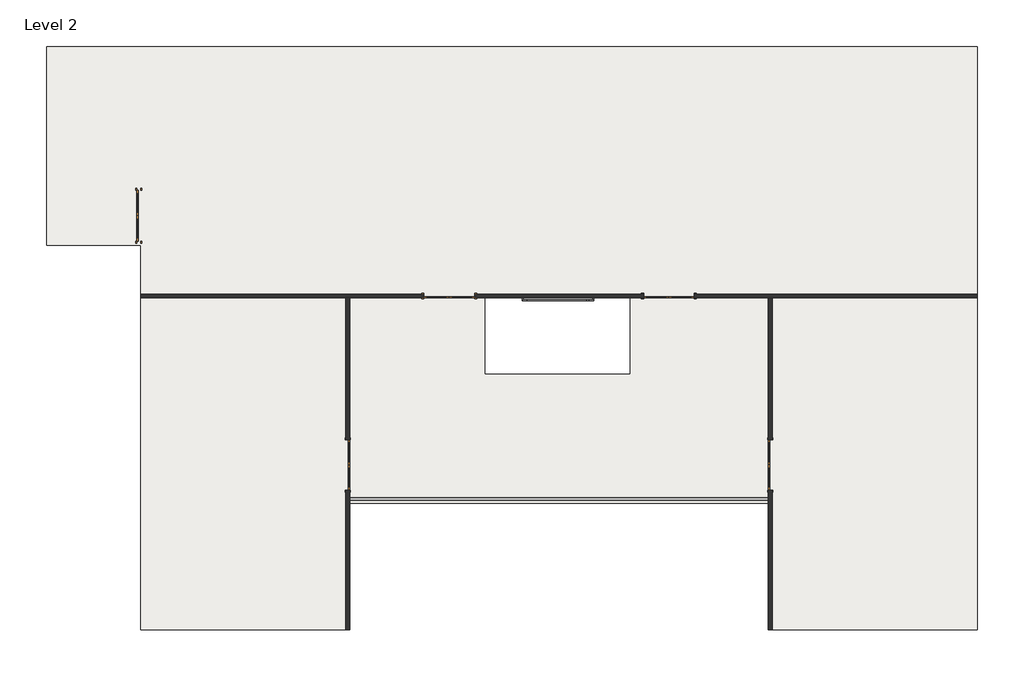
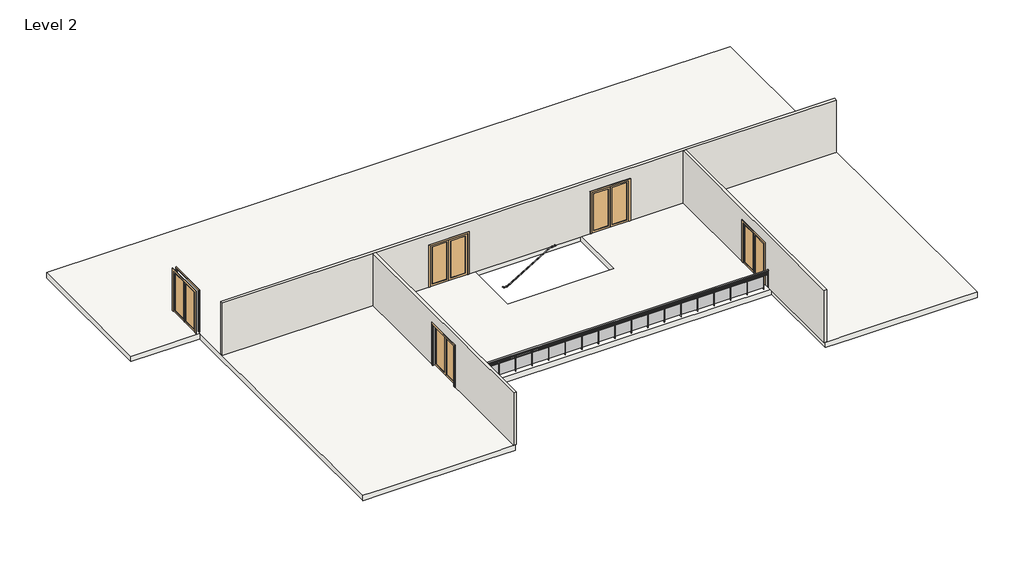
# One storey: 5 doors, 3 walls, 2 railings, 1 slab.
"""IFC4 building model written with IfcOpenShell, lengths in millimetres."""

import ifcopenshell
import ifcopenshell.guid

model = None  # the IFC model being written
_history = None  # IfcOwnerHistory: only IFC2X3 demands one
_inside = {}  # id of a spatial element -> (the spatial element, [elements in it])
_under = {}  # id of a project, library or spatial element -> (it, [spatial elements below it])
_declared = {}  # id of a project -> (the project, [libraries it declares])
_typed = {}  # id of a type object -> (the type object, [elements of that type])
_made_of = {}  # id of a material, layer set ... -> (it, [elements and type objects made of it])


def new_model(schema):
    """Start an empty IFC model of exactly this schema.

    Asked for "IFC4X3", IfcOpenShell would pick the latest addendum, in which some entities
    have other attributes; the version numbers below select the first issue.
    IFC2X3 requires an IfcOwnerHistory on every rooted entity: one is made here for all.
    """
    global model, _history
    if schema == "IFC4X3":
        model = ifcopenshell.file(schema_version=(4, 3, 0, 0))
    else:
        model = ifcopenshell.file(schema=schema)
    _inside.clear()
    _under.clear()
    _declared.clear()
    _typed.clear()
    _made_of.clear()
    _history = None
    if model.schema == "IFC2X3":
        org = make("IfcOrganization", Name="unknown")
        user = make(
            "IfcPersonAndOrganization",
            ThePerson=make("IfcPerson", FamilyName="unknown"),
            TheOrganization=org,
        )
        app = make(
            "IfcApplication",
            ApplicationDeveloper=org,
            Version="unknown",
            ApplicationFullName="unknown",
            ApplicationIdentifier="unknown",
        )
        _history = make(
            "IfcOwnerHistory",
            OwningUser=user,
            OwningApplication=app,
            ChangeAction="ADDED",
            CreationDate=0,
        )
    return model


def make(cls, **values):
    """One entity of the class cls with the attributes given. An attribute that is None is left unset."""
    return model.create_entity(
        cls, **{name: value for name, value in values.items() if value is not None}
    )


def rooted(cls, **values):
    """An entity with a GlobalId (a new one), such as an element, a storey or a relation."""
    return make(cls, GlobalId=ifcopenshell.guid.new(), OwnerHistory=_history, **values)


def si_unit(unit_type, name, prefix=None):
    """IfcSIUnit, for example si_unit("LENGTHUNIT", "METRE", prefix="MILLI")."""
    return make("IfcSIUnit", UnitType=unit_type, Prefix=prefix, Name=name)


def assignment(units):
    """IfcUnitAssignment: the units of a project."""
    return None if units is None else make("IfcUnitAssignment", Units=units)


def point(xyz):
    """IfcCartesianPoint."""
    return None if xyz is None else make("IfcCartesianPoint", Coordinates=xyz)


def direction(xyz):
    """IfcDirection."""
    return None if xyz is None else make("IfcDirection", DirectionRatios=xyz)


def frame(location, z_axis=None, x_axis=None):
    """IfcAxis2Placement3D, a coordinate frame: its origin and axes. An axis left out is left unset."""
    return make(
        "IfcAxis2Placement3D",
        Location=point(location),
        Axis=direction(z_axis),
        RefDirection=direction(x_axis),
    )


def origin():
    """The frame at (0, 0, 0) with its axes left unset."""
    return frame((0.0, 0.0, 0.0))


def place(relative_to, where):
    """IfcLocalPlacement: puts the frame where relative to a parent placement (None: the world)."""
    return make(
        "IfcLocalPlacement", PlacementRelTo=relative_to, RelativePlacement=where
    )


def context(
    kind, dimensions, precision=None, world=None, true_north=None, identifier=None
):
    """IfcGeometricRepresentationContext, for example the 3D "Model" context."""
    return make(
        "IfcGeometricRepresentationContext",
        ContextIdentifier=identifier,
        ContextType=kind,
        CoordinateSpaceDimension=dimensions,
        Precision=precision,
        WorldCoordinateSystem=world,
        TrueNorth=true_north,
    )


def project(units=None, contexts=None):
    """IfcProject with its units and contexts."""
    return rooted(
        "IfcProject",
        Name="project",
        RepresentationContexts=contexts,
        UnitsInContext=assignment(units),
    )


def spatial(cls, under=None, at=None, **own):
    """A site, building, storey or space (cls), placed at a placement, below another one or the project."""
    s = rooted(cls, ObjectPlacement=at, **own)
    if under is not None:
        _under.setdefault(under.id(), (under, []))[1].append(s)
    return s


def polyline(points):
    """IfcPolyline through the points."""
    return make("IfcPolyline", Points=[point(p) for p in points])


def circle_curve(where, radius):
    """IfcCircle in the frame where."""
    return make("IfcCircle", Position=where, Radius=radius)


def ellipse_curve(where, semi_axis1, semi_axis2):
    """IfcEllipse in the frame where."""
    return make(
        "IfcEllipse", Position=where, SemiAxis1=semi_axis1, SemiAxis2=semi_axis2
    )


def trimmed(basis, trim1, trim2, sense, master):
    """IfcTrimmedCurve: the piece of a basis curve between two trims."""
    return make(
        "IfcTrimmedCurve",
        BasisCurve=basis,
        Trim1=trim1,
        Trim2=trim2,
        SenseAgreement=sense,
        MasterRepresentation=master,
    )


def outline(outer, holes=None, kind="AREA"):
    """IfcArbitraryClosedProfileDef: a profile drawn as a closed curve; with holes, ...WithVoids."""
    if holes is None:
        return make("IfcArbitraryClosedProfileDef", ProfileType=kind, OuterCurve=outer)
    return make(
        "IfcArbitraryProfileDefWithVoids",
        ProfileType=kind,
        OuterCurve=outer,
        InnerCurves=holes,
    )


def extrude(swept, where, along, depth):
    """IfcExtrudedAreaSolid: the profile swept, set in the frame where, extruded along a direction by depth."""
    return make(
        "IfcExtrudedAreaSolid",
        SweptArea=swept,
        Position=where,
        ExtrudedDirection=direction(along),
        Depth=depth,
    )


def faces_of(points, faces, orient=None, outer=None):
    """IfcFace entities. A face is a list of loops; a loop is a list of indices into points, from 0.

    orient and outer hold one flag for each loop. By default every Orientation is true, the
    first loop of a face is its IfcFaceOuterBound and the others are IfcFaceBound.
    """
    made = []
    for i, loops in enumerate(faces):
        bounds = []
        for j, loop in enumerate(loops):
            is_outer = j == 0 if outer is None else outer[i][j]
            bounds.append(
                make(
                    "IfcFaceOuterBound" if is_outer else "IfcFaceBound",
                    Bound=make("IfcPolyLoop", Polygon=[points[k] for k in loop]),
                    Orientation=True if orient is None else orient[i][j],
                )
            )
        made.append(make("IfcFace", Bounds=bounds))
    return made


def faceted_brep(points, faces, orient=None, outer=None, voids=None):
    """IfcFacetedBrep: a solid bounded by flat faces; with voids (closed shells), ...WithVoids."""
    shared = [point(p) for p in points]
    hull = make("IfcClosedShell", CfsFaces=faces_of(shared, faces, orient, outer))
    if voids is None:
        return make("IfcFacetedBrep", Outer=hull)
    return make(
        "IfcFacetedBrepWithVoids",
        Outer=hull,
        Voids=[
            make(cls, CfsFaces=faces_of(shared, fs, o, b)) for cls, fs, o, b in voids
        ],
    )


def shape(context_of_items, identifier, shape_type, items):
    """IfcShapeRepresentation: the items that make up one representation, for example the "Body"."""
    return make(
        "IfcShapeRepresentation",
        ContextOfItems=context_of_items,
        RepresentationIdentifier=identifier,
        RepresentationType=shape_type,
        Items=items,
    )


def source(mapping_origin, context_of_items, identifier, shape_type, items):
    """IfcRepresentationMap: a shape defined once, which mapped items show again and again."""
    return make(
        "IfcRepresentationMap",
        MappingOrigin=mapping_origin,
        MappedRepresentation=shape(context_of_items, identifier, shape_type, items),
    )


def transform(
    local_origin,
    x_axis=None,
    y_axis=None,
    z_axis=None,
    scale=None,
    scale2=None,
    scale3=None,
    uniform=True,
):
    """IfcCartesianTransformationOperator3D, or its non-uniform kind. x_axis, y_axis, z_axis: its Axis1, 2, 3."""
    if uniform:
        return make(
            "IfcCartesianTransformationOperator3D",
            Axis1=direction(x_axis),
            Axis2=direction(y_axis),
            LocalOrigin=point(local_origin),
            Scale=scale,
            Axis3=direction(z_axis),
        )
    return make(
        "IfcCartesianTransformationOperator3DnonUniform",
        Axis1=direction(x_axis),
        Axis2=direction(y_axis),
        LocalOrigin=point(local_origin),
        Scale=scale,
        Axis3=direction(z_axis),
        Scale2=scale2,
        Scale3=scale3,
    )


def mapped(mapping_source, mapping_target):
    """IfcMappedItem: shows the shape of a source again, moved by a transform."""
    return make(
        "IfcMappedItem", MappingSource=mapping_source, MappingTarget=mapping_target
    )


def made_of(thing, what):
    """Note that an element or type object is made of a material, layer set ...; save() writes the relation."""
    if what is not None:
        _made_of.setdefault(what.id(), (what, []))[1].append(thing)
    return thing


def element(
    cls,
    number,
    at=None,
    inside=None,
    cuts=None,
    type_object=None,
    material=None,
    context=None,
    identifier="Body",
    shape_type=None,
    held_by="IfcProductDefinitionShape",
    body=None,
    shapes=None,
    **own,
):
    """One element of the class cls, such as IfcWall. Its Tag is "e" and its number.

    at: its placement. inside: the storey or other place that contains it. cuts: it is an
    opening in that element (IfcRelVoidsElement). A single representation is given by context,
    identifier, shape_type and body (its items); several are given by shapes. held_by: the class
    of the entity that holds the representations. save() writes the other relations.
    """
    e = rooted(cls, Tag="e%d" % number, ObjectPlacement=at, **own)
    if body is not None:
        shapes = [shape(context, identifier, shape_type, body)]
    if shapes is not None:
        e.Representation = make(held_by, Representations=shapes)
    if inside is not None:
        _inside.setdefault(inside.id(), (inside, []))[1].append(e)
    if cuts is not None:
        rooted(
            "IfcRelVoidsElement", RelatingBuildingElement=cuts, RelatedOpeningElement=e
        )
    if type_object is not None:
        _typed.setdefault(type_object.id(), (type_object, []))[1].append(e)
    return made_of(e, material)


def aggregate(whole, parts):
    """IfcRelAggregates: a whole, such as a stair, and the parts it consists of."""
    return rooted("IfcRelAggregates", RelatingObject=whole, RelatedObjects=parts)


def save(model, path):
    """Write the relations noted so far, then the file.

    IfcRelAggregates (storeys below a building ...), IfcRelContainedInSpatialStructure (elements
    in a storey), IfcRelDefinesByType, IfcRelAssociatesMaterial and IfcRelDeclares: one each for
    every whole, place, type object, material and project.
    """
    for whole, parts in _under.values():
        aggregate(whole, parts)
    for where, things in _inside.values():
        rooted(
            "IfcRelContainedInSpatialStructure",
            RelatedElements=things,
            RelatingStructure=where,
        )
    for kind, things in _typed.values():
        rooted("IfcRelDefinesByType", RelatedObjects=things, RelatingType=kind)
    for what, things in _made_of.values():
        rooted("IfcRelAssociatesMaterial", RelatedObjects=things, RelatingMaterial=what)
    for by, libraries in _declared.values():
        rooted("IfcRelDeclares", RelatingContext=by, RelatedDefinitions=libraries)
    model.write(path)


def plane_surface(at):
    """IfcPlane: the flat surface through the origin of the frame at, square to its z axis."""
    return make("IfcPlane", Position=at)


def cylinder_surface(at, radius):
    """IfcCylindricalSurface: all points at the distance radius from the z axis of the frame at."""
    return make("IfcCylindricalSurface", Position=at, Radius=radius)


def extruded_surface(curve, direction_of_extrusion, depth):
    """IfcSurfaceOfLinearExtrusion: the curve pushed along a direction by depth."""
    return make(
        "IfcSurfaceOfLinearExtrusion",
        SweptCurve=make("IfcArbitraryOpenProfileDef", ProfileType="CURVE", Curve=curve),
        ExtrudedDirection=direction(direction_of_extrusion),
        Depth=depth,
    )


def advanced_brep(points, edges, surfaces, faces):
    """IfcAdvancedBrep: a solid bounded by faces that lie on surfaces and meet in shared edges.

    An edge is (start, end): straight between two places in points (the first is 0);
    or (start, end, curve); or (start, end, curve, False) where it runs against its curve.
    A face is (place in surfaces, loops), or (place, loops, False) where it looks against
    its surface's normal. A loop lists edges by number (the first is 1), with a minus sign
    where the edge is run from its end to its start. The first loop is the outer one.
    """
    corners = [point(p) for p in points]
    vertices = [make("IfcVertexPoint", VertexGeometry=c) for c in corners]
    made = []
    for start, end, *more in edges:
        made.append(
            make(
                "IfcEdgeCurve",
                EdgeStart=vertices[start],
                EdgeEnd=vertices[end],
                EdgeGeometry=more[0] if more else make("IfcPolyline", Points=[corners[start], corners[end]]),
                SameSense=more[1] if len(more) > 1 else True,
            )
        )
    hull = []
    for where, loops, *sense in faces:
        bounds = []
        for j, loop in enumerate(loops):
            ring = [make("IfcOrientedEdge", EdgeElement=made[abs(k) - 1], Orientation=k > 0) for k in loop]
            bounds.append(
                make(
                    "IfcFaceOuterBound" if j == 0 else "IfcFaceBound",
                    Bound=make("IfcEdgeLoop", EdgeList=ring),
                    Orientation=True,
                )
            )
        hull.append(make("IfcAdvancedFace", Bounds=bounds, FaceSurface=surfaces[where], SameSense=sense[0] if sense else True))
    return make("IfcAdvancedBrep", Outer=make("IfcClosedShell", CfsFaces=hull))


def door_cb31edf2(model_context):
    return source(origin(), model_context, "Body", "SweptSolid", [
        extrude(outline(polyline([(2133.6, -914.4), (0.0, -914.4), (0.0, 0.0), (2133.6, 0.0), (2133.6, -914.4)]), holes=[polyline([(2032.0, -812.8), (2032.0, -101.6), (101.6, -101.6), (101.6, -812.8), (2032.0, -812.8)])]), frame((0.0, 29.36875, 0.0), z_axis=(0.0, 1.0, 0.0), x_axis=(0.0, 0.0, 1.0)), (0.0, 0.0, 1.0), 50.8),
        extrude(outline(polyline([(2133.6, 914.4), (2133.6, 0.0), (0.0, 0.0), (0.0, 914.4), (2133.6, 914.4)]), holes=[polyline([(2032.0, 812.8), (101.6, 812.8), (101.6, 101.6), (2032.0, 101.6), (2032.0, 812.8)])]), frame((0.0, 29.36875, 0.0), z_axis=(0.0, 1.0, 0.0), x_axis=(0.0, 0.0, 1.0)), (0.0, 0.0, 1.0), 50.8),
        extrude(outline(polyline([(101.6, 57.94375), (812.8, 57.94375), (812.8, 51.59375), (101.6, 51.59375), (101.6, 57.94375)])), frame((0.0, 0.0, 101.6), z_axis=(0.0, 0.0, 1.0), x_axis=(1.0, 0.0, 0.0)), (0.0, 0.0, 1.0), 1930.4),
        extrude(outline(polyline([(-812.8, 57.94375), (-101.6, 57.94375), (-101.6, 51.59375), (-812.8, 51.59375), (-812.8, 57.94375)])), frame((0.0, 0.0, 101.6), z_axis=(0.0, 0.0, 1.0), x_axis=(1.0, 0.0, 0.0)), (0.0, 0.0, 1.0), 1930.4),
        extrude(outline(polyline([(0.0, 990.6), (2209.8, 990.6), (2209.8, -990.6), (0.0, -990.6), (0.0, -914.4), (2133.6, -914.4), (2133.6, 914.4), (0.0, 914.4), (0.0, 990.6)])), frame((0.0, 80.16875, 0.0), z_axis=(0.0, 1.0, 0.0), x_axis=(0.0, 0.0, 1.0)), (0.0, 0.0, 1.0), 25.4),
        extrude(outline(polyline([(0.0, 990.6), (2209.8, 990.6), (2209.8, -990.6), (0.0, -990.6), (0.0, -914.4), (2133.6, -914.4), (2133.6, 914.4), (0.0, 914.4), (0.0, 990.6)])), frame((0.0, -100.80625, 0.0), z_axis=(0.0, 1.0, 0.0), x_axis=(0.0, 0.0, 1.0)), (0.0, 0.0, 1.0), 25.4),
    ])


def door_3f2f997e(model_context):
    return source(origin(), model_context, "Body", "SweptSolid", [
        extrude(outline(polyline([(2133.6, -914.4), (0.0, -914.4), (0.0, 0.0), (2133.6, 0.0), (2133.6, -914.4)]), holes=[polyline([(2032.0, -812.8), (2032.0, -101.6), (101.6, -101.6), (101.6, -812.8), (2032.0, -812.8)])]), frame((0.0, 21.43125, 0.0), z_axis=(0.0, 1.0, 0.0), x_axis=(0.0, 0.0, 1.0)), (0.0, 0.0, 1.0), 50.8),
        extrude(outline(polyline([(2133.6, 914.4), (2133.6, 0.0), (0.0, 0.0), (0.0, 914.4), (2133.6, 914.4)]), holes=[polyline([(2032.0, 812.8), (101.6, 812.8), (101.6, 101.6), (2032.0, 101.6), (2032.0, 812.8)])]), frame((0.0, 21.43125, 0.0), z_axis=(0.0, 1.0, 0.0), x_axis=(0.0, 0.0, 1.0)), (0.0, 0.0, 1.0), 50.8),
        extrude(outline(polyline([(101.6, 50.00625), (812.8, 50.00625), (812.8, 43.65625), (101.6, 43.65625), (101.6, 50.00625)])), frame((0.0, 0.0, 101.6), z_axis=(0.0, 0.0, 1.0), x_axis=(1.0, 0.0, 0.0)), (0.0, 0.0, 1.0), 1930.4),
        extrude(outline(polyline([(-812.8, 50.00625), (-101.6, 50.00625), (-101.6, 43.65625), (-812.8, 43.65625), (-812.8, 50.00625)])), frame((0.0, 0.0, 101.6), z_axis=(0.0, 0.0, 1.0), x_axis=(1.0, 0.0, 0.0)), (0.0, 0.0, 1.0), 1930.4),
        extrude(outline(polyline([(0.0, 990.6), (2209.8, 990.6), (2209.8, -990.6), (0.0, -990.6), (0.0, -914.4), (2133.6, -914.4), (2133.6, 914.4), (0.0, 914.4), (0.0, 990.6)])), frame((0.0, 72.23125, 0.0), z_axis=(0.0, 1.0, 0.0), x_axis=(0.0, 0.0, 1.0)), (0.0, 0.0, 1.0), 25.4),
        extrude(outline(polyline([(0.0, 990.6), (2209.8, 990.6), (2209.8, -990.6), (0.0, -990.6), (0.0, -914.4), (2133.6, -914.4), (2133.6, 914.4), (0.0, 914.4), (0.0, 990.6)])), frame((0.0, -92.86875, 0.0), z_axis=(0.0, 1.0, 0.0), x_axis=(0.0, 0.0, 1.0)), (0.0, 0.0, 1.0), 25.4),
    ])


model = new_model("IFC4")

# Units and contexts
model_context = context("Model", 3, world=origin())
ifc_project = project(units=[si_unit("LENGTHUNIT", "METRE", prefix="MILLI")], contexts=[model_context])

# Site, building, storey
site = spatial("IfcSite", under=ifc_project)
building = spatial("IfcBuilding", under=site)
storey = spatial("IfcBuildingStorey", under=building, Name="Level 2", Elevation=3048.0)

# Doors
placement = place(None, origin())
door_shape = door_cb31edf2(model_context)
element("IfcDoor", 1, ObjectType="Door-Double-Glass : 72\" x 84\"", at=placement, inside=storey, context=model_context, shape_type="MappedRepresentation", body=[
    mapped(door_shape, transform((-18248.748632, 9505.1983604, 3048.0), x_axis=(0.0, 1.0, 0.0), y_axis=(-1.0, 0.0, 0.0), z_axis=(0.0, 0.0, 1.0))),
])
door_2_shape = door_3f2f997e(model_context)
element("IfcDoor", 2, ObjectType="Door-Double-Glass : 72\" x 84\"", at=placement, inside=storey, context=model_context, shape_type="MappedRepresentation", body=[
    mapped(door_2_shape, transform((-10711.298632, 513.5983604, 3048.0), x_axis=(0.0, -1.0, 0.0), y_axis=(1.0, 0.0, 0.0), z_axis=(0.0, 0.0, 1.0))),
])
element("IfcDoor", 3, ObjectType="Door-Double-Glass : 72\" x 84\"", at=placement, inside=storey, context=model_context, shape_type="MappedRepresentation", body=[
    mapped(door_2_shape, transform((4533.463868, 513.5983604, 3048.0), x_axis=(0.0, 1.0, 0.0), y_axis=(-1.0, 0.0, 0.0), z_axis=(0.0, 0.0, 1.0))),
])
element("IfcDoor", 4, ObjectType="Door-Double-Glass : 72\" x 84\"", at=placement, inside=storey, context=model_context, shape_type="MappedRepresentation", body=[
    mapped(door_2_shape, transform((-7051.317382, 6611.9796104, 3048.0), x_axis=(-1.0, 0.0, 0.0), y_axis=(0.0, -1.0, 0.0), z_axis=(0.0, 0.0, 1.0))),
])
element("IfcDoor", 5, ObjectType="Door-Double-Glass : 72\" x 84\"", at=placement, inside=storey, context=model_context, shape_type="MappedRepresentation", body=[
    mapped(door_2_shape, transform((873.482618, 6611.9796104, 3048.0), x_axis=(-1.0, 0.0, 0.0), y_axis=(0.0, -1.0, 0.0), z_axis=(0.0, 0.0, 1.0))),
])

# Railings
element("IfcRailing", 6, ObjectType="Glass Panel - Bottom Fill", at=placement, inside=storey, context=model_context, shape_type="SolidModel", body=[
    advanced_brep(
    [(-10639.067382, -677.0266396, 3962.4), (-10639.067382, -753.2266396, 3962.4), (4461.232618, -677.0266396, 3962.4), (4461.232618, -753.2266396, 3962.4)],
    [
        (0, 1, ellipse_curve(frame((-10639.067382, -715.1266396, 3962.4), z_axis=(-1.0, 0.0, 0.0), x_axis=(0.0, -1.0, 0.0)), 38.1, 28.575)),
        (1, 0, ellipse_curve(frame((-10639.067382, -715.1266396, 3962.4), z_axis=(-1.0, 0.0, 0.0), x_axis=(0.0, -1.0, 0.0)), 38.1, 28.575)),
        (2, 3, ellipse_curve(frame((4461.232618, -715.1266396, 3962.4), z_axis=(1.0, 0.0, 0.0), x_axis=(0.0, -1.0, 0.0)), 38.1, 28.575)),
        (3, 2, ellipse_curve(frame((4461.232618, -715.1266396, 3962.4), z_axis=(1.0, 0.0, 0.0), x_axis=(0.0, -1.0, 0.0)), 38.1, 28.575)),
        (0, 2),
        (3, 1),
    ],
    [
        plane_surface(frame((-10639.067382, -715.1266396, 3962.4), z_axis=(-1.0, 0.0, 0.0), x_axis=(0.0, 1.0, 0.0))),
        plane_surface(frame((4461.232618, -715.1266396, 3962.4), z_axis=(1.0, 0.0, 0.0), x_axis=(0.0, 1.0, 0.0))),
        extruded_surface(trimmed(ellipse_curve(frame((4461.232618, -715.1266396, 3962.4), z_axis=(-1.0, 0.0, 0.0), x_axis=(0.0, -1.0, 0.0)), 38.1, 28.575), [point((4461.232618, -677.0266396, 3962.4))], [point((4461.232618, -753.2266396, 3962.4))], True, "CARTESIAN"), (-15100.3, 0.0, 0.0), 15100.3),
        extruded_surface(trimmed(ellipse_curve(frame((4461.232618, -715.1266396, 3962.4), z_axis=(-1.0, 0.0, 0.0), x_axis=(0.0, -1.0, 0.0)), 38.1, 28.575), [point((4461.232618, -753.2266396, 3962.4))], [point((4461.232618, -677.0266396, 3962.4))], True, "CARTESIAN"), (-15100.3, 0.0, 0.0), 15100.3),
    ],
    [
        (0, [[1, 2]]),
        (1, [[3, 4]]),
        (2, [[-1, 5, -4, 6]]),
        (3, [[-2, -6, -3, -5]]),
    ],
),
    extrude(outline(polyline([(-10639.067382, -727.8266396), (-10639.067382, -702.4266396), (4461.232618, -702.4266396), (4461.232618, -727.8266396), (-10639.067382, -727.8266396)])), frame((0.0, 0.0, 3848.1), z_axis=(0.0, 0.0, 1.0), x_axis=(1.0, 0.0, 0.0)), (0.0, 0.0, 1.0), 25.4),
    extrude(outline(polyline([(-10639.067382, -727.8266396), (-10639.067382, -702.4266396), (4461.232618, -702.4266396), (4461.232618, -727.8266396), (-10639.067382, -727.8266396)])), frame((0.0, 0.0, 3746.5), z_axis=(0.0, 0.0, 1.0), x_axis=(1.0, 0.0, 0.0)), (0.0, 0.0, 1.0), 25.4),
    extrude(outline(polyline([(4219.932618, -740.5266396), (4219.932618, -689.7266396), (4232.632618, -689.7266396), (4232.632618, -740.5266396), (4219.932618, -740.5266396)])), frame((0.0, 0.0, 3048.0), z_axis=(0.0, 0.0, 1.0), x_axis=(1.0, 0.0, 0.0)), (0.0, 0.0, 1.0), 885.6788223),
    extrude(outline(polyline([(3413.482618, -708.5914825), (4226.282618, -708.5914825), (4226.282618, -714.9414825), (3413.482618, -714.9414825), (3413.482618, -708.5914825)])), frame((0.0, 0.0, 3149.6), z_axis=(0.0, 0.0, 1.0), x_axis=(1.0, 0.0, 0.0)), (0.0, 0.0, 1.0), 596.9),
    extrude(outline(polyline([(3407.132618, -740.5266396), (3407.132618, -689.7266396), (3419.832618, -689.7266396), (3419.832618, -740.5266396), (3407.132618, -740.5266396)])), frame((0.0, 0.0, 3048.0), z_axis=(0.0, 0.0, 1.0), x_axis=(1.0, 0.0, 0.0)), (0.0, 0.0, 1.0), 885.6788223),
    extrude(outline(polyline([(2600.682618, -708.5914825), (3413.482618, -708.5914825), (3413.482618, -714.9414825), (2600.682618, -714.9414825), (2600.682618, -708.5914825)])), frame((0.0, 0.0, 3149.6), z_axis=(0.0, 0.0, 1.0), x_axis=(1.0, 0.0, 0.0)), (0.0, 0.0, 1.0), 596.9),
    extrude(outline(polyline([(2594.332618, -740.5266396), (2594.332618, -689.7266396), (2607.032618, -689.7266396), (2607.032618, -740.5266396), (2594.332618, -740.5266396)])), frame((0.0, 0.0, 3048.0), z_axis=(0.0, 0.0, 1.0), x_axis=(1.0, 0.0, 0.0)), (0.0, 0.0, 1.0), 885.6788223),
    extrude(outline(polyline([(1787.882618, -708.5914825), (2600.682618, -708.5914825), (2600.682618, -714.9414825), (1787.882618, -714.9414825), (1787.882618, -708.5914825)])), frame((0.0, 0.0, 3149.6), z_axis=(0.0, 0.0, 1.0), x_axis=(1.0, 0.0, 0.0)), (0.0, 0.0, 1.0), 596.9),
    extrude(outline(polyline([(1781.532618, -740.5266396), (1781.532618, -689.7266396), (1794.232618, -689.7266396), (1794.232618, -740.5266396), (1781.532618, -740.5266396)])), frame((0.0, 0.0, 3048.0), z_axis=(0.0, 0.0, 1.0), x_axis=(1.0, 0.0, 0.0)), (0.0, 0.0, 1.0), 885.6788223),
    extrude(outline(polyline([(975.082618, -708.5914825), (1787.882618, -708.5914825), (1787.882618, -714.9414825), (975.082618, -714.9414825), (975.082618, -708.5914825)])), frame((0.0, 0.0, 3149.6), z_axis=(0.0, 0.0, 1.0), x_axis=(1.0, 0.0, 0.0)), (0.0, 0.0, 1.0), 596.9),
    extrude(outline(polyline([(968.732618, -740.5266396), (968.732618, -689.7266396), (981.432618, -689.7266396), (981.432618, -740.5266396), (968.732618, -740.5266396)])), frame((0.0, 0.0, 3048.0), z_axis=(0.0, 0.0, 1.0), x_axis=(1.0, 0.0, 0.0)), (0.0, 0.0, 1.0), 885.6788223),
    extrude(outline(polyline([(162.282618, -708.5914825), (975.082618, -708.5914825), (975.082618, -714.9414825), (162.282618, -714.9414825), (162.282618, -708.5914825)])), frame((0.0, 0.0, 3149.6), z_axis=(0.0, 0.0, 1.0), x_axis=(1.0, 0.0, 0.0)), (0.0, 0.0, 1.0), 596.9),
    extrude(outline(polyline([(155.932618, -740.5266396), (155.932618, -689.7266396), (168.632618, -689.7266396), (168.632618, -740.5266396), (155.932618, -740.5266396)])), frame((0.0, 0.0, 3048.0), z_axis=(0.0, 0.0, 1.0), x_axis=(1.0, 0.0, 0.0)), (0.0, 0.0, 1.0), 885.6788223),
    extrude(outline(polyline([(-650.517382, -708.5914825), (162.282618, -708.5914825), (162.282618, -714.9414825), (-650.517382, -714.9414825), (-650.517382, -708.5914825)])), frame((0.0, 0.0, 3149.6), z_axis=(0.0, 0.0, 1.0), x_axis=(1.0, 0.0, 0.0)), (0.0, 0.0, 1.0), 596.9),
    extrude(outline(polyline([(-656.867382, -740.5266396), (-656.867382, -689.7266396), (-644.167382, -689.7266396), (-644.167382, -740.5266396), (-656.867382, -740.5266396)])), frame((0.0, 0.0, 3048.0), z_axis=(0.0, 0.0, 1.0), x_axis=(1.0, 0.0, 0.0)), (0.0, 0.0, 1.0), 885.6788223),
    extrude(outline(polyline([(-1463.317382, -708.5914825), (-650.517382, -708.5914825), (-650.517382, -714.9414825), (-1463.317382, -714.9414825), (-1463.317382, -708.5914825)])), frame((0.0, 0.0, 3149.6), z_axis=(0.0, 0.0, 1.0), x_axis=(1.0, 0.0, 0.0)), (0.0, 0.0, 1.0), 596.9),
    extrude(outline(polyline([(-1469.667382, -740.5266396), (-1469.667382, -689.7266396), (-1456.967382, -689.7266396), (-1456.967382, -740.5266396), (-1469.667382, -740.5266396)])), frame((0.0, 0.0, 3048.0), z_axis=(0.0, 0.0, 1.0), x_axis=(1.0, 0.0, 0.0)), (0.0, 0.0, 1.0), 885.6788223),
    extrude(outline(polyline([(-2276.117382, -708.5914825), (-1463.317382, -708.5914825), (-1463.317382, -714.9414825), (-2276.117382, -714.9414825), (-2276.117382, -708.5914825)])), frame((0.0, 0.0, 3149.6), z_axis=(0.0, 0.0, 1.0), x_axis=(1.0, 0.0, 0.0)), (0.0, 0.0, 1.0), 596.9),
    extrude(outline(polyline([(-2282.467382, -740.5266396), (-2282.467382, -689.7266396), (-2269.767382, -689.7266396), (-2269.767382, -740.5266396), (-2282.467382, -740.5266396)])), frame((0.0, 0.0, 3048.0), z_axis=(0.0, 0.0, 1.0), x_axis=(1.0, 0.0, 0.0)), (0.0, 0.0, 1.0), 885.6788223),
    extrude(outline(polyline([(-3088.917382, -708.5914825), (-2276.117382, -708.5914825), (-2276.117382, -714.9414825), (-3088.917382, -714.9414825), (-3088.917382, -708.5914825)])), frame((0.0, 0.0, 3149.6), z_axis=(0.0, 0.0, 1.0), x_axis=(1.0, 0.0, 0.0)), (0.0, 0.0, 1.0), 596.9),
    extrude(outline(polyline([(-3095.267382, -740.5266396), (-3095.267382, -689.7266396), (-3082.567382, -689.7266396), (-3082.567382, -740.5266396), (-3095.267382, -740.5266396)])), frame((0.0, 0.0, 3048.0), z_axis=(0.0, 0.0, 1.0), x_axis=(1.0, 0.0, 0.0)), (0.0, 0.0, 1.0), 885.6788223),
    extrude(outline(polyline([(-3901.717382, -708.5914825), (-3088.917382, -708.5914825), (-3088.917382, -714.9414825), (-3901.717382, -714.9414825), (-3901.717382, -708.5914825)])), frame((0.0, 0.0, 3149.6), z_axis=(0.0, 0.0, 1.0), x_axis=(1.0, 0.0, 0.0)), (0.0, 0.0, 1.0), 596.9),
    extrude(outline(polyline([(-3908.067382, -740.5266396), (-3908.067382, -689.7266396), (-3895.367382, -689.7266396), (-3895.367382, -740.5266396), (-3908.067382, -740.5266396)])), frame((0.0, 0.0, 3048.0), z_axis=(0.0, 0.0, 1.0), x_axis=(1.0, 0.0, 0.0)), (0.0, 0.0, 1.0), 885.6788223),
    extrude(outline(polyline([(-4714.517382, -708.5914825), (-3901.717382, -708.5914825), (-3901.717382, -714.9414825), (-4714.517382, -714.9414825), (-4714.517382, -708.5914825)])), frame((0.0, 0.0, 3149.6), z_axis=(0.0, 0.0, 1.0), x_axis=(1.0, 0.0, 0.0)), (0.0, 0.0, 1.0), 596.9),
    extrude(outline(polyline([(-4720.867382, -740.5266396), (-4720.867382, -689.7266396), (-4708.167382, -689.7266396), (-4708.167382, -740.5266396), (-4720.867382, -740.5266396)])), frame((0.0, 0.0, 3048.0), z_axis=(0.0, 0.0, 1.0), x_axis=(1.0, 0.0, 0.0)), (0.0, 0.0, 1.0), 885.6788223),
    extrude(outline(polyline([(-5527.317382, -708.5914825), (-4714.517382, -708.5914825), (-4714.517382, -714.9414825), (-5527.317382, -714.9414825), (-5527.317382, -708.5914825)])), frame((0.0, 0.0, 3149.6), z_axis=(0.0, 0.0, 1.0), x_axis=(1.0, 0.0, 0.0)), (0.0, 0.0, 1.0), 596.9),
    extrude(outline(polyline([(-5533.667382, -740.5266396), (-5533.667382, -689.7266396), (-5520.967382, -689.7266396), (-5520.967382, -740.5266396), (-5533.667382, -740.5266396)])), frame((0.0, 0.0, 3048.0), z_axis=(0.0, 0.0, 1.0), x_axis=(1.0, 0.0, 0.0)), (0.0, 0.0, 1.0), 885.6788223),
    extrude(outline(polyline([(-6340.117382, -708.5914825), (-5527.317382, -708.5914825), (-5527.317382, -714.9414825), (-6340.117382, -714.9414825), (-6340.117382, -708.5914825)])), frame((0.0, 0.0, 3149.6), z_axis=(0.0, 0.0, 1.0), x_axis=(1.0, 0.0, 0.0)), (0.0, 0.0, 1.0), 596.9),
    extrude(outline(polyline([(-6346.467382, -740.5266396), (-6346.467382, -689.7266396), (-6333.767382, -689.7266396), (-6333.767382, -740.5266396), (-6346.467382, -740.5266396)])), frame((0.0, 0.0, 3048.0), z_axis=(0.0, 0.0, 1.0), x_axis=(1.0, 0.0, 0.0)), (0.0, 0.0, 1.0), 885.6788223),
    extrude(outline(polyline([(-7152.917382, -708.5914825), (-6340.117382, -708.5914825), (-6340.117382, -714.9414825), (-7152.917382, -714.9414825), (-7152.917382, -708.5914825)])), frame((0.0, 0.0, 3149.6), z_axis=(0.0, 0.0, 1.0), x_axis=(1.0, 0.0, 0.0)), (0.0, 0.0, 1.0), 596.9),
    extrude(outline(polyline([(-7159.267382, -740.5266396), (-7159.267382, -689.7266396), (-7146.567382, -689.7266396), (-7146.567382, -740.5266396), (-7159.267382, -740.5266396)])), frame((0.0, 0.0, 3048.0), z_axis=(0.0, 0.0, 1.0), x_axis=(1.0, 0.0, 0.0)), (0.0, 0.0, 1.0), 885.6788223),
    extrude(outline(polyline([(-7965.717382, -708.5914825), (-7152.917382, -708.5914825), (-7152.917382, -714.9414825), (-7965.717382, -714.9414825), (-7965.717382, -708.5914825)])), frame((0.0, 0.0, 3149.6), z_axis=(0.0, 0.0, 1.0), x_axis=(1.0, 0.0, 0.0)), (0.0, 0.0, 1.0), 596.9),
    extrude(outline(polyline([(-7972.067382, -740.5266396), (-7972.067382, -689.7266396), (-7959.367382, -689.7266396), (-7959.367382, -740.5266396), (-7972.067382, -740.5266396)])), frame((0.0, 0.0, 3048.0), z_axis=(0.0, 0.0, 1.0), x_axis=(1.0, 0.0, 0.0)), (0.0, 0.0, 1.0), 885.6788223),
    extrude(outline(polyline([(-8778.517382, -708.5914825), (-7965.717382, -708.5914825), (-7965.717382, -714.9414825), (-8778.517382, -714.9414825), (-8778.517382, -708.5914825)])), frame((0.0, 0.0, 3149.6), z_axis=(0.0, 0.0, 1.0), x_axis=(1.0, 0.0, 0.0)), (0.0, 0.0, 1.0), 596.9),
    extrude(outline(polyline([(-8784.867382, -740.5266396), (-8784.867382, -689.7266396), (-8772.167382, -689.7266396), (-8772.167382, -740.5266396), (-8784.867382, -740.5266396)])), frame((0.0, 0.0, 3048.0), z_axis=(0.0, 0.0, 1.0), x_axis=(1.0, 0.0, 0.0)), (0.0, 0.0, 1.0), 885.6788223),
    extrude(outline(polyline([(-9591.317382, -708.5914825), (-8778.517382, -708.5914825), (-8778.517382, -714.9414825), (-9591.317382, -714.9414825), (-9591.317382, -708.5914825)])), frame((0.0, 0.0, 3149.6), z_axis=(0.0, 0.0, 1.0), x_axis=(1.0, 0.0, 0.0)), (0.0, 0.0, 1.0), 596.9),
    extrude(outline(polyline([(-9597.667382, -740.5266396), (-9597.667382, -689.7266396), (-9584.967382, -689.7266396), (-9584.967382, -740.5266396), (-9597.667382, -740.5266396)])), frame((0.0, 0.0, 3048.0), z_axis=(0.0, 0.0, 1.0), x_axis=(1.0, 0.0, 0.0)), (0.0, 0.0, 1.0), 885.6788223),
    extrude(outline(polyline([(-10404.117382, -708.5914825), (-9591.317382, -708.5914825), (-9591.317382, -714.9414825), (-10404.117382, -714.9414825), (-10404.117382, -708.5914825)])), frame((0.0, 0.0, 3149.6), z_axis=(0.0, 0.0, 1.0), x_axis=(1.0, 0.0, 0.0)), (0.0, 0.0, 1.0), 596.9),
    extrude(outline(polyline([(-10410.467382, -740.5266396), (-10410.467382, -689.7266396), (-10397.767382, -689.7266396), (-10397.767382, -740.5266396), (-10410.467382, -740.5266396)])), frame((0.0, 0.0, 3048.0), z_axis=(0.0, 0.0, 1.0), x_axis=(1.0, 0.0, 0.0)), (0.0, 0.0, 1.0), 885.6788223),
    extrude(outline(polyline([(4448.532618, -724.6516396), (4448.532618, -705.6016396), (4467.582618, -705.6016396), (4467.582618, -724.6516396), (4448.532618, -724.6516396)])), frame((0.0, 0.0, 3048.0), z_axis=(0.0, 0.0, 1.0), x_axis=(1.0, 0.0, 0.0)), (0.0, 0.0, 1.0), 885.6788223),
    extrude(outline(polyline([(-10645.417382, -724.6516396), (-10645.417382, -705.6016396), (-10626.367382, -705.6016396), (-10626.367382, -724.6516396), (-10645.417382, -724.6516396)])), frame((0.0, 0.0, 3048.0), z_axis=(0.0, 0.0, 1.0), x_axis=(1.0, 0.0, 0.0)), (0.0, 0.0, 1.0), 885.6788223),
])
element("IfcRailing", 7, ObjectType="Wall Mount Handrail", at=placement, inside=storey, context=model_context, shape_type="AdvancedBrep", body=[
    advanced_brep(
    [(-4236.7479685, 6482.5983604, 1805.1362182), (-4236.7479685, 6444.4983604, 1805.1362182), (-2105.6952284, 6444.4983604, 3096.6833333), (-2105.6952284, 6482.5983604, 3096.6833333), (-2006.870122, 6444.4983604, 3096.6833333), (-2006.870122, 6482.5983604, 3096.6833333), (-4413.520122, 6539.7483604, 1805.1362182), (-4375.420122, 6539.7483604, 1805.1362182), (-4413.520122, 6444.4983604, 1805.1362182), (-4375.420122, 6482.5983604, 1805.1362182), (-1835.420122, 6444.4983604, 3096.6833333), (-1873.520122, 6482.5983604, 3096.6833333), (-1835.420122, 6539.7483604, 3096.6833333), (-1873.520122, 6539.7483604, 3096.6833333)],
    [
        (0, 1, ellipse_curve(frame((-4236.7479685, 6463.5483604, 1805.1362182), z_axis=(0.963119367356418, 0.0, 0.2690744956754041), x_axis=(0.2690744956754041, 0.0, -0.9631193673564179)), 19.7794797, 19.05)),
        (1, 2),
        (2, 3, ellipse_curve(frame((-2105.6952284, 6463.5483604, 3096.6833333), z_axis=(-0.963119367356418, 0.0, -0.26907449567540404), x_axis=(0.26907449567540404, 0.0, -0.9631193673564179)), 19.7794797, 19.05)),
        (3, 0),
        (1, 0, ellipse_curve(frame((-4236.7479685, 6463.5483604, 1805.1362182), z_axis=(0.963119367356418, 0.0, 0.2690744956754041), x_axis=(0.2690744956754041, 0.0, -0.9631193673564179)), 19.7794797, 19.05)),
        (3, 2, ellipse_curve(frame((-2105.6952284, 6463.5483604, 3096.6833333), z_axis=(-0.963119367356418, 0.0, -0.26907449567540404), x_axis=(0.26907449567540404, 0.0, -0.9631193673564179)), 19.7794797, 19.05)),
        (2, 4),
        (4, 5, circle_curve(frame((-2006.870122, 6463.5483604, 3096.6833333), z_axis=(-1.0, 0.0, 0.0), x_axis=(0.0, 1.0, 0.0)), 19.05)),
        (5, 3),
        (5, 4, circle_curve(frame((-2006.870122, 6463.5483604, 3096.6833333), z_axis=(-1.0, 0.0, 0.0), x_axis=(0.0, 1.0, 0.0)), 19.05)),
        (6, 7, circle_curve(frame((-4394.470122, 6539.7483604, 1805.1362182), z_axis=(0.0, 1.0, 0.0), x_axis=(1.0, 0.0, 0.0)), 19.05)),
        (7, 6, circle_curve(frame((-4394.470122, 6539.7483604, 1805.1362182), z_axis=(0.0, 1.0, 0.0), x_axis=(1.0, 0.0, 0.0)), 19.05)),
        (6, 8),
        (8, 9, ellipse_curve(frame((-4394.470122, 6463.5483604, 1805.1362182), z_axis=(-0.7071067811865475, 0.7071067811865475, 0.0), x_axis=(0.7071067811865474, 0.7071067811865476, 0.0)), 26.9407684, 19.05)),
        (9, 7),
        (9, 8, ellipse_curve(frame((-4394.470122, 6463.5483604, 1805.1362182), z_axis=(-0.7071067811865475, 0.7071067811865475, 0.0), x_axis=(0.7071067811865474, 0.7071067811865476, 0.0)), 26.9407684, 19.05)),
        (8, 1),
        (0, 9),
        (4, 10),
        (10, 11, ellipse_curve(frame((-1854.470122, 6463.5483604, 3096.6833333), z_axis=(-0.7071067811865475, -0.7071067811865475, 0.0), x_axis=(-0.7071067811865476, 0.7071067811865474, 0.0)), 26.9407684, 19.05)),
        (11, 5),
        (11, 10, ellipse_curve(frame((-1854.470122, 6463.5483604, 3096.6833333), z_axis=(-0.7071067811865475, -0.7071067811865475, 0.0), x_axis=(-0.7071067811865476, 0.7071067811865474, 0.0)), 26.9407684, 19.05)),
        (12, 13, circle_curve(frame((-1854.470122, 6539.7483604, 3096.6833333), z_axis=(0.0, 1.0, 0.0), x_axis=(-1.0, 0.0, 0.0)), 19.05)),
        (13, 12, circle_curve(frame((-1854.470122, 6539.7483604, 3096.6833333), z_axis=(0.0, 1.0, 0.0), x_axis=(-1.0, 0.0, 0.0)), 19.05)),
        (10, 12),
        (13, 11),
    ],
    [
        cylinder_surface(frame((-4232.1964743, 6463.5483604, 1807.8946995), z_axis=(-0.8551978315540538, 0.0, -0.5183017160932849), x_axis=(0.0, 1.0, 0.0)), 19.05),
        cylinder_surface(frame((-2111.017382, 6463.5483604, 3096.6833333), z_axis=(-1.0, 0.0, 0.0), x_axis=(0.0, 1.0, 0.0)), 19.05),
        plane_surface(frame((-4394.470122, 6539.7483604, 1824.1862182), z_axis=(0.0, 1.0, 0.0), x_axis=(0.0, 0.0, -1.0))),
        cylinder_surface(frame((-4394.470122, 6539.7483604, 1805.1362182), z_axis=(0.0, 1.0, 0.0), x_axis=(1.0, 0.0, 0.0)), 19.05),
        cylinder_surface(frame((-4394.470122, 6463.5483604, 1805.1362182), z_axis=(-1.0, 0.0, 0.0), x_axis=(0.0, 1.0, 0.0)), 19.05),
        cylinder_surface(frame((-2006.870122, 6463.5483604, 3096.6833333), z_axis=(-1.0, 0.0, 0.0), x_axis=(0.0, 1.0, 0.0)), 19.05),
        plane_surface(frame((-1854.470122, 6539.7483604, 3115.7333333), z_axis=(0.0, 1.0, 0.0), x_axis=(0.0, 0.0, 1.0))),
        cylinder_surface(frame((-1854.470122, 6463.5483604, 3096.6833333), z_axis=(0.0, -1.0, 0.0), x_axis=(-1.0, 0.0, 0.0)), 19.05),
    ],
    [
        (0, [[1, 2, 3, 4]]),
        (0, [[5, -4, 6, -2]]),
        (1, [[-3, 7, 8, 9]]),
        (1, [[-6, -9, 10, -7]]),
        (2, [[11, 12]]),
        (3, [[-11, 13, 14, 15]]),
        (3, [[-12, -15, 16, -13]]),
        (4, [[-14, 17, -1, 18]]),
        (4, [[-16, -18, -5, -17]]),
        (5, [[-8, 19, 20, 21]]),
        (5, [[-10, -21, 22, -19]]),
        (6, [[23, 24]]),
        (7, [[-20, 25, -24, 26]]),
        (7, [[-22, -26, -23, -25]]),
    ],
),
])

# Slab
element("IfcSlab", 8, ObjectType="Wood Joist 10\" - Ceramic Tile", at=placement, inside=storey, context=model_context, shape_type="Brep", body=[
    faceted_brep([(12008.207618, 15610.7233604, 2774.95), (12008.207618, 15598.0233604, 2774.95), (12008.207618, -5439.5266396, 2774.95), (11995.507618, -5439.5266396, 2774.95), (11084.282618, -5439.5266396, 2774.95), (5902.682618, -5439.5266396, 2774.95), (4531.082618, -5439.5266396, 2774.95), (4531.082618, -5426.8266396, 2774.95), (4531.082618, -867.5266396, 2774.95), (-10708.917382, -867.5266396, 2774.95), (-10708.917382, -5426.8266396, 2774.95), (-10708.917382, -5439.5266396, 2774.95), (-12080.517382, -5439.5266396, 2774.95), (-17262.117382, -5439.5266396, 2774.95), (-18186.042382, -5439.5266396, 2774.95), (-18186.042382, -5426.8266396, 2774.95), (-18186.042382, 8438.3983604, 2774.95), (-21580.117382, 8438.3983604, 2774.95), (-21580.117382, 15610.7233604, 2774.95), (-21424.542382, 15610.7233604, 2774.95), (-10708.917382, 15610.7233604, 2774.95), (4531.082618, 15610.7233604, 2774.95), (-5743.217382, 3796.5483604, 2774.95), (-536.217382, 3796.5483604, 2774.95), (-536.217382, 6609.5983604, 2774.95), (-5743.217382, 6609.5983604, 2774.95), (12008.207618, -5439.5266396, 3048.0), (12008.207618, 15598.0233604, 3048.0), (12008.207618, 15610.7233604, 3048.0), (4531.082618, 15610.7233604, 3048.0), (-10708.917382, 15610.7233604, 3048.0), (-21424.542382, 15610.7233604, 3048.0), (-21580.117382, 15610.7233604, 3048.0), (-21580.117382, 8438.3983604, 3048.0), (-18186.042382, 8438.3983604, 3048.0), (-18186.042382, -5426.8266396, 3048.0), (-18186.042382, -5439.5266396, 3048.0), (-17262.117382, -5439.5266396, 3048.0), (-12080.517382, -5439.5266396, 3048.0), (-10708.917382, -5439.5266396, 3048.0), (-10708.917382, -5426.8266396, 3048.0), (-10708.917382, -867.5266396, 3048.0), (4531.082618, -867.5266396, 3048.0), (4531.082618, -5426.8266396, 3048.0), (4531.082618, -5439.5266396, 3048.0), (5902.682618, -5439.5266396, 3048.0), (11084.282618, -5439.5266396, 3048.0), (11995.507618, -5439.5266396, 3048.0), (-536.217382, 3796.5483604, 3048.0), (-5743.217382, 3796.5483604, 3048.0), (-5743.217382, 6609.5983604, 3048.0), (-536.217382, 6609.5983604, 3048.0)], [[[0, 1, 2, 3, 4, 5, 6, 7, 8, 9, 10, 11, 12, 13, 14, 15, 16, 17, 18, 19, 20, 21], [22, 23, 24, 25]], [[26, 27, 28, 29, 30, 31, 32, 33, 34, 35, 36, 37, 38, 39, 40, 41, 42, 43, 44, 45, 46, 47], [48, 49, 50, 51]], [[2, 1, 0, 28, 27, 26]], [[6, 5, 4, 3, 2, 26, 47, 46, 45, 44]], [[14, 13, 12, 11, 39, 38, 37, 36]], [[16, 15, 14, 36, 35, 34]], [[17, 16, 34, 33]], [[18, 17, 33, 32]], [[0, 21, 20, 19, 18, 32, 31, 30, 29, 28]], [[8, 7, 6, 44, 43, 42]], [[9, 8, 42, 41]], [[11, 10, 9, 41, 40, 39]], [[22, 49, 48, 23]], [[23, 48, 51, 24]], [[24, 51, 50, 25]], [[49, 22, 25, 50]]]),
])

# Walls
element("IfcWall", 9, ObjectType="Interior - 5 1/2\" Partition (1-hr)", at=placement, inside=storey, context=model_context, shape_type="Brep", body=[
    faceted_brep([(-6136.917382, 6539.7483604, 3048.0), (-40.917382, 6539.7483604, 3048.0), (-40.917382, 6539.7483604, 5181.6), (1787.882618, 6539.7483604, 5181.6), (1787.882618, 6539.7483604, 3048.0), (4461.232618, 6539.7483604, 3048.0), (4600.932618, 6539.7483604, 3048.0), (11995.507618, 6539.7483604, 3048.0), (11995.507618, 6539.7483604, 5772.15), (4600.932618, 6539.7483604, 5772.15), (4461.232618, 6539.7483604, 5772.15), (-10639.067382, 6539.7483604, 5772.15), (-10778.767382, 6539.7483604, 5772.15), (-18173.342382, 6539.7483604, 5772.15), (-18173.342382, 6539.7483604, 3048.0), (-10778.767382, 6539.7483604, 3048.0), (-10639.067382, 6539.7483604, 3048.0), (-7965.717382, 6539.7483604, 3048.0), (-7965.717382, 6539.7483604, 5181.6), (-6136.917382, 6539.7483604, 5181.6), (-40.917382, 6679.4483604, 5181.6), (-40.917382, 6679.4483604, 3048.0), (-6136.917382, 6679.4483604, 3048.0), (-6136.917382, 6679.4483604, 5181.6), (-7965.717382, 6679.4483604, 5181.6), (-7965.717382, 6679.4483604, 3048.0), (-18173.342382, 6679.4483604, 3048.0), (-18173.342382, 6679.4483604, 5772.15), (11995.507618, 6679.4483604, 5772.15), (11995.507618, 6679.4483604, 3048.0), (1787.882618, 6679.4483604, 3048.0), (1787.882618, 6679.4483604, 5181.6)], [[[0, 1, 2, 3, 4, 5, 6, 7, 8, 9, 10, 11, 12, 13, 14, 15, 16, 17, 18, 19]], [[20, 21, 22, 23, 24, 25, 26, 27, 28, 29, 30, 31]], [[22, 21, 1, 0]], [[26, 25, 17, 16, 15, 14]], [[30, 29, 7, 6, 5, 4]], [[13, 12, 11, 10, 9, 8, 28, 27]], [[8, 7, 29, 28]], [[14, 13, 27, 26]], [[2, 1, 21, 20]], [[3, 2, 20, 31]], [[4, 3, 31, 30]], [[18, 17, 25, 24]], [[19, 18, 24, 23]], [[0, 19, 23, 22]]]),
])
element("IfcWall", 10, ObjectType="Interior - 5 1/2\" Partition (1-hr)", at=placement, inside=storey, context=model_context, shape_type="Brep", body=[
    faceted_brep([(4461.232618, 6539.7483604, 3048.0), (4461.232618, 1427.9983604, 3048.0), (4461.232618, 1427.9983604, 5181.6), (4461.232618, -400.8016396, 5181.6), (4461.232618, -400.8016396, 3048.0), (4461.232618, -5426.8266396, 3048.0), (4461.232618, -5426.8266396, 5772.15), (4461.232618, 6539.7483604, 5772.15), (4600.932618, 1427.9983604, 5181.6), (4600.932618, 1427.9983604, 3048.0), (4600.932618, 6539.7483604, 3048.0), (4600.932618, 6539.7483604, 5772.15), (4600.932618, -5426.8266396, 5772.15), (4600.932618, -5426.8266396, 3048.0), (4600.932618, -400.8016396, 3048.0), (4600.932618, -400.8016396, 5181.6), (4531.082618, -5426.8266396, 3048.0)], [[[0, 1, 2, 3, 4, 5, 6, 7]], [[8, 9, 10, 11, 12, 13, 14, 15]], [[10, 9, 1, 0]], [[14, 13, 16, 5, 4]], [[0, 7, 11, 10]], [[6, 5, 16, 13, 12]], [[7, 6, 12, 11]], [[2, 1, 9, 8]], [[3, 2, 8, 15]], [[4, 3, 15, 14]]]),
])
element("IfcWall", 11, ObjectType="Interior - 5 1/2\" Partition (1-hr)", at=placement, inside=storey, context=model_context, shape_type="Brep", body=[
    faceted_brep([(-10778.767382, -400.8016396, 5181.6), (-10778.767382, -400.8016396, 3048.0), (-10778.767382, -5426.8266396, 3048.0), (-10778.767382, -5426.8266396, 5772.15), (-10778.767382, 6539.7483604, 5772.15), (-10778.767382, 6539.7483604, 3048.0), (-10778.767382, 1427.9983604, 3048.0), (-10778.767382, 1427.9983604, 5181.6), (-10639.067382, -5426.8266396, 3048.0), (-10639.067382, -400.8016396, 3048.0), (-10639.067382, -400.8016396, 5181.6), (-10639.067382, 1427.9983604, 5181.6), (-10639.067382, 1427.9983604, 3048.0), (-10639.067382, 6539.7483604, 3048.0), (-10639.067382, 6539.7483604, 5772.15), (-10639.067382, -5426.8266396, 5772.15), (-10708.917382, -5426.8266396, 3048.0)], [[[0, 1, 2, 3, 4, 5, 6, 7]], [[8, 9, 10, 11, 12, 13, 14, 15]], [[2, 1, 9, 8, 16]], [[6, 5, 13, 12]], [[5, 4, 14, 13]], [[3, 2, 16, 8, 15]], [[4, 3, 15, 14]], [[10, 9, 1, 0]], [[11, 10, 0, 7]], [[12, 11, 7, 6]]]),
])

save(model, "model.ifc")
